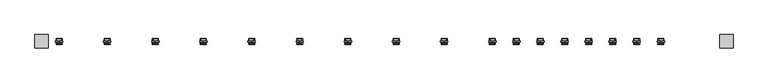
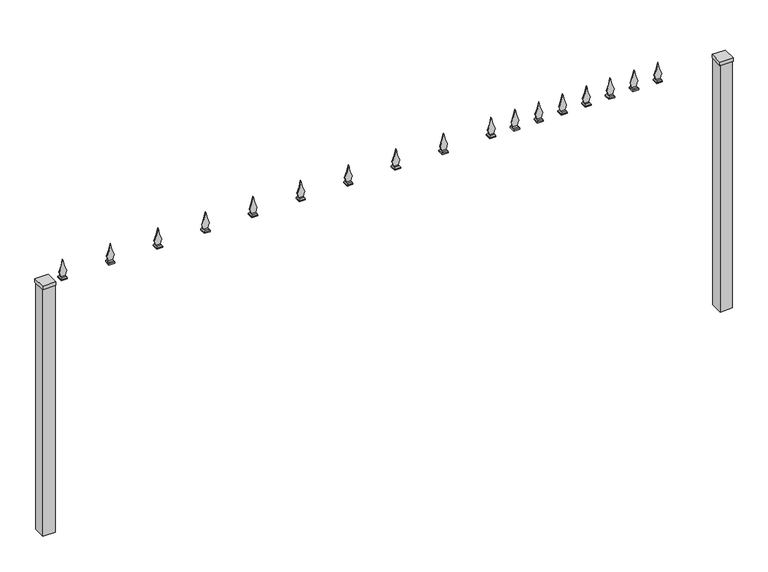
"""IFC4 building model written with IfcOpenShell, lengths in millimetres: geographic element geometry, Portail coulissant - 01 : Portail coulissant - 01."""

from ifc_helpers import new_model, si_unit, point, frame, frame_2d, origin, place, context, project, spatial, polyline, circle_curve, trimmed, segment, composite_curve, outline, extrude, faceted_brep, source, transform, mapped, element, save


def geographic_element_b61b0670(model_context):
    return source(origin(), model_context, "Body", "SolidModel", [
        extrude(outline(composite_curve([segment(trimmed(circle_curve(frame_2d((1074.9252719, 881.9773887)), 87.884948), [point((1110.0, 962.5598156))], [point((1090.0, 968.5598156))], True, "CARTESIAN"), True, "CONTINUOUS"), segment(polyline([(1090.0, 968.5598156), (1090.0, 986.5598156)]), True, "CONTINUOUS"), segment(trimmed(circle_curve(frame_2d((1074.9252719, 1073.1422425)), 87.884948), [point((1090.0, 986.5598156))], [point((1110.0, 992.5598156))], True, "CARTESIAN"), True, "CONTINUOUS"), segment(trimmed(circle_curve(frame_2d((1184.2044665, 1149.0747041)), 173.2143562), [point((1110.0, 992.5598156))], [point((1160.0, 977.5598156))], True, "CARTESIAN"), True, "CONTINUOUS"), segment(trimmed(circle_curve(frame_2d((1184.2044665, 806.0449271)), 173.2143562), [point((1160.0, 977.5598156))], [point((1110.0, 962.5598156))], True, "CARTESIAN"), True, "CONTINUOUS")], self_intersect=False)), frame((0.0, -1.5, 0.0), z_axis=(0.0, 1.0, 0.0), x_axis=(0.0, 0.0, 1.0)), (0.0, 0.0, 1.0), 3.0),
        faceted_brep([(968.5598156, -9.0, 1090.0), (986.5598156, -9.0, 1090.0), (986.5598156, 9.0, 1090.0), (968.5598156, 9.0, 1090.0), (965.5598156, -12.0, 1085.0), (965.5598156, 12.0, 1085.0), (989.5598156, 12.0, 1085.0), (989.5598156, -12.0, 1085.0)], [[[0, 1, 2, 3]], [[4, 5, 6, 7]], [[4, 0, 3, 5]], [[5, 3, 2, 6]], [[6, 2, 1, 7]], [[7, 1, 0, 4]]]),
        extrude(outline(polyline([(989.5598156, -12.0), (965.5598156, -12.0), (965.5598156, 12.0), (989.5598156, 12.0), (989.5598156, -12.0)])), frame((0.0, 0.0, 1080.0), z_axis=(0.0, 0.0, 1.0), x_axis=(1.0, 0.0, 0.0)), (0.0, 0.0, 1.0), 5.0),
        extrude(outline(composite_curve([segment(trimmed(circle_curve(frame_2d((1074.9252719, 785.310722)), 87.884948), [point((1110.0, 865.8931489))], [point((1090.0, 871.8931489))], True, "CARTESIAN"), True, "CONTINUOUS"), segment(polyline([(1090.0, 871.8931489), (1090.0, 889.8931489)]), True, "CONTINUOUS"), segment(trimmed(circle_curve(frame_2d((1074.9252719, 976.4755759)), 87.884948), [point((1090.0, 889.8931489))], [point((1110.0, 895.8931489))], True, "CARTESIAN"), True, "CONTINUOUS"), segment(trimmed(circle_curve(frame_2d((1184.2044665, 1052.4080374)), 173.2143562), [point((1110.0, 895.8931489))], [point((1160.0, 880.8931489))], True, "CARTESIAN"), True, "CONTINUOUS"), segment(trimmed(circle_curve(frame_2d((1184.2044665, 709.3782604)), 173.2143562), [point((1160.0, 880.8931489))], [point((1110.0, 865.8931489))], True, "CARTESIAN"), True, "CONTINUOUS")], self_intersect=False)), frame((0.0, -1.5, 0.0), z_axis=(0.0, 1.0, 0.0), x_axis=(0.0, 0.0, 1.0)), (0.0, 0.0, 1.0), 3.0),
        faceted_brep([(871.8931489, -9.0, 1090.0), (889.8931489, -9.0, 1090.0), (889.8931489, 9.0, 1090.0), (871.8931489, 9.0, 1090.0), (868.8931489, -12.0, 1085.0), (868.8931489, 12.0, 1085.0), (892.8931489, 12.0, 1085.0), (892.8931489, -12.0, 1085.0)], [[[0, 1, 2, 3]], [[4, 5, 6, 7]], [[4, 0, 3, 5]], [[5, 3, 2, 6]], [[6, 2, 1, 7]], [[7, 1, 0, 4]]]),
        extrude(outline(polyline([(892.8931489, -12.0), (868.8931489, -12.0), (868.8931489, 12.0), (892.8931489, 12.0), (892.8931489, -12.0)])), frame((0.0, 0.0, 1080.0), z_axis=(0.0, 0.0, 1.0), x_axis=(1.0, 0.0, 0.0)), (0.0, 0.0, 1.0), 5.0),
        extrude(outline(composite_curve([segment(trimmed(circle_curve(frame_2d((1074.9252719, 688.6440554)), 87.884948), [point((1110.0, 769.2264823))], [point((1090.0, 775.2264823))], True, "CARTESIAN"), True, "CONTINUOUS"), segment(polyline([(1090.0, 775.2264823), (1090.0, 793.2264823)]), True, "CONTINUOUS"), segment(trimmed(circle_curve(frame_2d((1074.9252719, 879.8089092)), 87.884948), [point((1090.0, 793.2264823))], [point((1110.0, 799.2264823))], True, "CARTESIAN"), True, "CONTINUOUS"), segment(trimmed(circle_curve(frame_2d((1184.2044665, 955.7413708)), 173.2143562), [point((1110.0, 799.2264823))], [point((1160.0, 784.2264823))], True, "CARTESIAN"), True, "CONTINUOUS"), segment(trimmed(circle_curve(frame_2d((1184.2044665, 612.7115938)), 173.2143562), [point((1160.0, 784.2264823))], [point((1110.0, 769.2264823))], True, "CARTESIAN"), True, "CONTINUOUS")], self_intersect=False)), frame((0.0, -1.5, 0.0), z_axis=(0.0, 1.0, 0.0), x_axis=(0.0, 0.0, 1.0)), (0.0, 0.0, 1.0), 3.0),
        faceted_brep([(775.2264823, -9.0, 1090.0), (793.2264823, -9.0, 1090.0), (793.2264823, 9.0, 1090.0), (775.2264823, 9.0, 1090.0), (772.2264823, -12.0, 1085.0), (772.2264823, 12.0, 1085.0), (796.2264823, 12.0, 1085.0), (796.2264823, -12.0, 1085.0)], [[[0, 1, 2, 3]], [[4, 5, 6, 7]], [[4, 0, 3, 5]], [[5, 3, 2, 6]], [[6, 2, 1, 7]], [[7, 1, 0, 4]]]),
        extrude(outline(polyline([(796.2264823, -12.0), (772.2264823, -12.0), (772.2264823, 12.0), (796.2264823, 12.0), (796.2264823, -12.0)])), frame((0.0, 0.0, 1080.0), z_axis=(0.0, 0.0, 1.0), x_axis=(1.0, 0.0, 0.0)), (0.0, 0.0, 1.0), 5.0),
        extrude(outline(composite_curve([segment(trimmed(circle_curve(frame_2d((1074.9252719, 591.9773887)), 87.884948), [point((1110.0, 672.5598156))], [point((1090.0, 678.5598156))], True, "CARTESIAN"), True, "CONTINUOUS"), segment(polyline([(1090.0, 678.5598156), (1090.0, 696.5598156)]), True, "CONTINUOUS"), segment(trimmed(circle_curve(frame_2d((1074.9252719, 783.1422425)), 87.884948), [point((1090.0, 696.5598156))], [point((1110.0, 702.5598156))], True, "CARTESIAN"), True, "CONTINUOUS"), segment(trimmed(circle_curve(frame_2d((1184.2044665, 859.0747041)), 173.2143562), [point((1110.0, 702.5598156))], [point((1160.0, 687.5598156))], True, "CARTESIAN"), True, "CONTINUOUS"), segment(trimmed(circle_curve(frame_2d((1184.2044665, 516.0449271)), 173.2143562), [point((1160.0, 687.5598156))], [point((1110.0, 672.5598156))], True, "CARTESIAN"), True, "CONTINUOUS")], self_intersect=False)), frame((0.0, -1.5, 0.0), z_axis=(0.0, 1.0, 0.0), x_axis=(0.0, 0.0, 1.0)), (0.0, 0.0, 1.0), 3.0),
        faceted_brep([(678.5598156, -9.0, 1090.0), (696.5598156, -9.0, 1090.0), (696.5598156, 9.0, 1090.0), (678.5598156, 9.0, 1090.0), (675.5598156, -12.0, 1085.0), (675.5598156, 12.0, 1085.0), (699.5598156, 12.0, 1085.0), (699.5598156, -12.0, 1085.0)], [[[0, 1, 2, 3]], [[4, 5, 6, 7]], [[4, 0, 3, 5]], [[5, 3, 2, 6]], [[6, 2, 1, 7]], [[7, 1, 0, 4]]]),
        extrude(outline(polyline([(699.5598156, -12.0), (675.5598156, -12.0), (675.5598156, 12.0), (699.5598156, 12.0), (699.5598156, -12.0)])), frame((0.0, 0.0, 1080.0), z_axis=(0.0, 0.0, 1.0), x_axis=(1.0, 0.0, 0.0)), (0.0, 0.0, 1.0), 5.0),
        extrude(outline(composite_curve([segment(trimmed(circle_curve(frame_2d((1074.9252719, 495.310722)), 87.884948), [point((1110.0, 575.8931489))], [point((1090.0, 581.8931489))], True, "CARTESIAN"), True, "CONTINUOUS"), segment(polyline([(1090.0, 581.8931489), (1090.0, 599.8931489)]), True, "CONTINUOUS"), segment(trimmed(circle_curve(frame_2d((1074.9252719, 686.4755759)), 87.884948), [point((1090.0, 599.8931489))], [point((1110.0, 605.8931489))], True, "CARTESIAN"), True, "CONTINUOUS"), segment(trimmed(circle_curve(frame_2d((1184.2044665, 762.4080374)), 173.2143562), [point((1110.0, 605.8931489))], [point((1160.0, 590.8931489))], True, "CARTESIAN"), True, "CONTINUOUS"), segment(trimmed(circle_curve(frame_2d((1184.2044665, 419.3782604)), 173.2143562), [point((1160.0, 590.8931489))], [point((1110.0, 575.8931489))], True, "CARTESIAN"), True, "CONTINUOUS")], self_intersect=False)), frame((0.0, -1.5, 0.0), z_axis=(0.0, 1.0, 0.0), x_axis=(0.0, 0.0, 1.0)), (0.0, 0.0, 1.0), 3.0),
        faceted_brep([(581.8931489, -9.0, 1090.0), (599.8931489, -9.0, 1090.0), (599.8931489, 9.0, 1090.0), (581.8931489, 9.0, 1090.0), (578.8931489, -12.0, 1085.0), (578.8931489, 12.0, 1085.0), (602.8931489, 12.0, 1085.0), (602.8931489, -12.0, 1085.0)], [[[0, 1, 2, 3]], [[4, 5, 6, 7]], [[4, 0, 3, 5]], [[5, 3, 2, 6]], [[6, 2, 1, 7]], [[7, 1, 0, 4]]]),
        extrude(outline(polyline([(602.8931489, -12.0), (578.8931489, -12.0), (578.8931489, 12.0), (602.8931489, 12.0), (602.8931489, -12.0)])), frame((0.0, 0.0, 1080.0), z_axis=(0.0, 0.0, 1.0), x_axis=(1.0, 0.0, 0.0)), (0.0, 0.0, 1.0), 5.0),
        extrude(outline(composite_curve([segment(trimmed(circle_curve(frame_2d((1074.9252719, 398.6440554)), 87.884948), [point((1110.0, 479.2264823))], [point((1090.0, 485.2264823))], True, "CARTESIAN"), True, "CONTINUOUS"), segment(polyline([(1090.0, 485.2264823), (1090.0, 503.2264823)]), True, "CONTINUOUS"), segment(trimmed(circle_curve(frame_2d((1074.9252719, 589.8089092)), 87.884948), [point((1090.0, 503.2264823))], [point((1110.0, 509.2264823))], True, "CARTESIAN"), True, "CONTINUOUS"), segment(trimmed(circle_curve(frame_2d((1184.2044665, 665.7413708)), 173.2143562), [point((1110.0, 509.2264823))], [point((1160.0, 494.2264823))], True, "CARTESIAN"), True, "CONTINUOUS"), segment(trimmed(circle_curve(frame_2d((1184.2044665, 322.7115938)), 173.2143562), [point((1160.0, 494.2264823))], [point((1110.0, 479.2264823))], True, "CARTESIAN"), True, "CONTINUOUS")], self_intersect=False)), frame((0.0, -1.5, 0.0), z_axis=(0.0, 1.0, 0.0), x_axis=(0.0, 0.0, 1.0)), (0.0, 0.0, 1.0), 3.0),
        faceted_brep([(485.2264823, -9.0, 1090.0), (503.2264823, -9.0, 1090.0), (503.2264823, 9.0, 1090.0), (485.2264823, 9.0, 1090.0), (482.2264823, -12.0, 1085.0), (482.2264823, 12.0, 1085.0), (506.2264823, 12.0, 1085.0), (506.2264823, -12.0, 1085.0)], [[[0, 1, 2, 3]], [[4, 5, 6, 7]], [[4, 0, 3, 5]], [[5, 3, 2, 6]], [[6, 2, 1, 7]], [[7, 1, 0, 4]]]),
        extrude(outline(polyline([(506.2264823, -12.0), (482.2264823, -12.0), (482.2264823, 12.0), (506.2264823, 12.0), (506.2264823, -12.0)])), frame((0.0, 0.0, 1080.0), z_axis=(0.0, 0.0, 1.0), x_axis=(1.0, 0.0, 0.0)), (0.0, 0.0, 1.0), 5.0),
        extrude(outline(composite_curve([segment(trimmed(circle_curve(frame_2d((1074.9252719, 301.9773887)), 87.884948), [point((1110.0, 382.5598156))], [point((1090.0, 388.5598156))], True, "CARTESIAN"), True, "CONTINUOUS"), segment(polyline([(1090.0, 388.5598156), (1090.0, 406.5598156)]), True, "CONTINUOUS"), segment(trimmed(circle_curve(frame_2d((1074.9252719, 493.1422425)), 87.884948), [point((1090.0, 406.5598156))], [point((1110.0, 412.5598156))], True, "CARTESIAN"), True, "CONTINUOUS"), segment(trimmed(circle_curve(frame_2d((1184.2044665, 569.0747041)), 173.2143562), [point((1110.0, 412.5598156))], [point((1160.0, 397.5598156))], True, "CARTESIAN"), True, "CONTINUOUS"), segment(trimmed(circle_curve(frame_2d((1184.2044665, 226.0449271)), 173.2143562), [point((1160.0, 397.5598156))], [point((1110.0, 382.5598156))], True, "CARTESIAN"), True, "CONTINUOUS")], self_intersect=False)), frame((0.0, -1.5, 0.0), z_axis=(0.0, 1.0, 0.0), x_axis=(0.0, 0.0, 1.0)), (0.0, 0.0, 1.0), 3.0),
        faceted_brep([(388.5598156, -9.0, 1090.0), (406.5598156, -9.0, 1090.0), (406.5598156, 9.0, 1090.0), (388.5598156, 9.0, 1090.0), (385.5598156, -12.0, 1085.0), (385.5598156, 12.0, 1085.0), (409.5598156, 12.0, 1085.0), (409.5598156, -12.0, 1085.0)], [[[0, 1, 2, 3]], [[4, 5, 6, 7]], [[4, 0, 3, 5]], [[5, 3, 2, 6]], [[6, 2, 1, 7]], [[7, 1, 0, 4]]]),
        extrude(outline(polyline([(409.5598156, -12.0), (385.5598156, -12.0), (385.5598156, 12.0), (409.5598156, 12.0), (409.5598156, -12.0)])), frame((0.0, 0.0, 1080.0), z_axis=(0.0, 0.0, 1.0), x_axis=(1.0, 0.0, 0.0)), (0.0, 0.0, 1.0), 5.0),
        extrude(outline(composite_curve([segment(trimmed(circle_curve(frame_2d((1074.9252719, 205.310722)), 87.884948), [point((1110.0, 285.8931489))], [point((1090.0, 291.8931489))], True, "CARTESIAN"), True, "CONTINUOUS"), segment(polyline([(1090.0, 291.8931489), (1090.0, 309.8931489)]), True, "CONTINUOUS"), segment(trimmed(circle_curve(frame_2d((1074.9252719, 396.4755759)), 87.884948), [point((1090.0, 309.8931489))], [point((1110.0, 315.8931489))], True, "CARTESIAN"), True, "CONTINUOUS"), segment(trimmed(circle_curve(frame_2d((1184.2044665, 472.4080374)), 173.2143562), [point((1110.0, 315.8931489))], [point((1160.0, 300.8931489))], True, "CARTESIAN"), True, "CONTINUOUS"), segment(trimmed(circle_curve(frame_2d((1184.2044665, 129.3782604)), 173.2143562), [point((1160.0, 300.8931489))], [point((1110.0, 285.8931489))], True, "CARTESIAN"), True, "CONTINUOUS")], self_intersect=False)), frame((0.0, -1.5, 0.0), z_axis=(0.0, 1.0, 0.0), x_axis=(0.0, 0.0, 1.0)), (0.0, 0.0, 1.0), 3.0),
        faceted_brep([(291.8931489, -9.0, 1090.0), (309.8931489, -9.0, 1090.0), (309.8931489, 9.0, 1090.0), (291.8931489, 9.0, 1090.0), (288.8931489, -12.0, 1085.0), (288.8931489, 12.0, 1085.0), (312.8931489, 12.0, 1085.0), (312.8931489, -12.0, 1085.0)], [[[0, 1, 2, 3]], [[4, 5, 6, 7]], [[4, 0, 3, 5]], [[5, 3, 2, 6]], [[6, 2, 1, 7]], [[7, 1, 0, 4]]]),
        extrude(outline(polyline([(312.8931489, -12.0), (288.8931489, -12.0), (288.8931489, 12.0), (312.8931489, 12.0), (312.8931489, -12.0)])), frame((0.0, 0.0, 1080.0), z_axis=(0.0, 0.0, 1.0), x_axis=(1.0, 0.0, 0.0)), (0.0, 0.0, 1.0), 5.0),
        extrude(outline(composite_curve([segment(trimmed(circle_curve(frame_2d((1074.9252719, 11.9773887)), 87.884948), [point((1110.0, 92.5598156))], [point((1090.0, 98.5598156))], True, "CARTESIAN"), True, "CONTINUOUS"), segment(polyline([(1090.0, 98.5598156), (1090.0, 116.5598156)]), True, "CONTINUOUS"), segment(trimmed(circle_curve(frame_2d((1074.9252719, 203.1422425)), 87.884948), [point((1090.0, 116.5598156))], [point((1110.0, 122.5598156))], True, "CARTESIAN"), True, "CONTINUOUS"), segment(trimmed(circle_curve(frame_2d((1184.2044665, 279.0747041)), 173.2143562), [point((1110.0, 122.5598156))], [point((1160.0, 107.5598156))], True, "CARTESIAN"), True, "CONTINUOUS"), segment(trimmed(circle_curve(frame_2d((1184.2044665, -63.9550729)), 173.2143562), [point((1160.0, 107.5598156))], [point((1110.0, 92.5598156))], True, "CARTESIAN"), True, "CONTINUOUS")], self_intersect=False)), frame((0.0, -1.5, 0.0), z_axis=(0.0, 1.0, 0.0), x_axis=(0.0, 0.0, 1.0)), (0.0, 0.0, 1.0), 3.0),
        faceted_brep([(98.5598156, -9.0, 1090.0), (116.5598156, -9.0, 1090.0), (116.5598156, 9.0, 1090.0), (98.5598156, 9.0, 1090.0), (95.5598156, -12.0, 1085.0), (95.5598156, 12.0, 1085.0), (119.5598156, 12.0, 1085.0), (119.5598156, -12.0, 1085.0)], [[[0, 1, 2, 3]], [[4, 5, 6, 7]], [[4, 0, 3, 5]], [[5, 3, 2, 6]], [[6, 2, 1, 7]], [[7, 1, 0, 4]]]),
        extrude(outline(polyline([(119.5598156, -12.0), (95.5598156, -12.0), (95.5598156, 12.0), (119.5598156, 12.0), (119.5598156, -12.0)])), frame((0.0, 0.0, 1080.0), z_axis=(0.0, 0.0, 1.0), x_axis=(1.0, 0.0, 0.0)), (0.0, 0.0, 1.0), 5.0),
        extrude(outline(composite_curve([segment(trimmed(circle_curve(frame_2d((1074.9252719, -181.3559446)), 87.884948), [point((1110.0, -100.7735177))], [point((1090.0, -94.7735177))], True, "CARTESIAN"), True, "CONTINUOUS"), segment(polyline([(1090.0, -94.7735177), (1090.0, -76.7735177)]), True, "CONTINUOUS"), segment(trimmed(circle_curve(frame_2d((1074.9252719, 9.8089092)), 87.884948), [point((1090.0, -76.7735177))], [point((1110.0, -70.7735177))], True, "CARTESIAN"), True, "CONTINUOUS"), segment(trimmed(circle_curve(frame_2d((1184.2044665, 85.7413708)), 173.2143562), [point((1110.0, -70.7735177))], [point((1160.0, -85.7735177))], True, "CARTESIAN"), True, "CONTINUOUS"), segment(trimmed(circle_curve(frame_2d((1184.2044665, -257.2884062)), 173.2143562), [point((1160.0, -85.7735177))], [point((1110.0, -100.7735177))], True, "CARTESIAN"), True, "CONTINUOUS")], self_intersect=False)), frame((0.0, -1.5, 0.0), z_axis=(0.0, 1.0, 0.0), x_axis=(0.0, 0.0, 1.0)), (0.0, 0.0, 1.0), 3.0),
        faceted_brep([(-94.7735177, -9.0, 1090.0), (-76.7735177, -9.0, 1090.0), (-76.7735177, 9.0, 1090.0), (-94.7735177, 9.0, 1090.0), (-97.7735177, -12.0, 1085.0), (-97.7735177, 12.0, 1085.0), (-73.7735177, 12.0, 1085.0), (-73.7735177, -12.0, 1085.0)], [[[0, 1, 2, 3]], [[4, 5, 6, 7]], [[4, 0, 3, 5]], [[5, 3, 2, 6]], [[6, 2, 1, 7]], [[7, 1, 0, 4]]]),
        extrude(outline(polyline([(-73.7735177, -12.0), (-97.7735177, -12.0), (-97.7735177, 12.0), (-73.7735177, 12.0), (-73.7735177, -12.0)])), frame((0.0, 0.0, 1080.0), z_axis=(0.0, 0.0, 1.0), x_axis=(1.0, 0.0, 0.0)), (0.0, 0.0, 1.0), 5.0),
        extrude(outline(composite_curve([segment(trimmed(circle_curve(frame_2d((1074.9252719, -374.689278)), 87.884948), [point((1110.0, -294.1068511))], [point((1090.0, -288.1068511))], True, "CARTESIAN"), True, "CONTINUOUS"), segment(polyline([(1090.0, -288.1068511), (1090.0, -270.1068511)]), True, "CONTINUOUS"), segment(trimmed(circle_curve(frame_2d((1074.9252719, -183.5244241)), 87.884948), [point((1090.0, -270.1068511))], [point((1110.0, -264.1068511))], True, "CARTESIAN"), True, "CONTINUOUS"), segment(trimmed(circle_curve(frame_2d((1184.2044665, -107.5919626)), 173.2143562), [point((1110.0, -264.1068511))], [point((1160.0, -279.1068511))], True, "CARTESIAN"), True, "CONTINUOUS"), segment(trimmed(circle_curve(frame_2d((1184.2044665, -450.6217396)), 173.2143562), [point((1160.0, -279.1068511))], [point((1110.0, -294.1068511))], True, "CARTESIAN"), True, "CONTINUOUS")], self_intersect=False)), frame((0.0, -1.5, 0.0), z_axis=(0.0, 1.0, 0.0), x_axis=(0.0, 0.0, 1.0)), (0.0, 0.0, 1.0), 3.0),
        faceted_brep([(-288.1068511, -9.0, 1090.0), (-270.1068511, -9.0, 1090.0), (-270.1068511, 9.0, 1090.0), (-288.1068511, 9.0, 1090.0), (-291.1068511, -12.0, 1085.0), (-291.1068511, 12.0, 1085.0), (-267.1068511, 12.0, 1085.0), (-267.1068511, -12.0, 1085.0)], [[[0, 1, 2, 3]], [[4, 5, 6, 7]], [[4, 0, 3, 5]], [[5, 3, 2, 6]], [[6, 2, 1, 7]], [[7, 1, 0, 4]]]),
        extrude(outline(polyline([(-267.1068511, -12.0), (-291.1068511, -12.0), (-291.1068511, 12.0), (-267.1068511, 12.0), (-267.1068511, -12.0)])), frame((0.0, 0.0, 1080.0), z_axis=(0.0, 0.0, 1.0), x_axis=(1.0, 0.0, 0.0)), (0.0, 0.0, 1.0), 5.0),
        extrude(outline(composite_curve([segment(trimmed(circle_curve(frame_2d((1074.9252719, -568.0226113)), 87.884948), [point((1110.0, -487.4401844))], [point((1090.0, -481.4401844))], True, "CARTESIAN"), True, "CONTINUOUS"), segment(polyline([(1090.0, -481.4401844), (1090.0, -463.4401844)]), True, "CONTINUOUS"), segment(trimmed(circle_curve(frame_2d((1074.9252719, -376.8577575)), 87.884948), [point((1090.0, -463.4401844))], [point((1110.0, -457.4401844))], True, "CARTESIAN"), True, "CONTINUOUS"), segment(trimmed(circle_curve(frame_2d((1184.2044665, -300.9252959)), 173.2143562), [point((1110.0, -457.4401844))], [point((1160.0, -472.4401844))], True, "CARTESIAN"), True, "CONTINUOUS"), segment(trimmed(circle_curve(frame_2d((1184.2044665, -643.9550729)), 173.2143562), [point((1160.0, -472.4401844))], [point((1110.0, -487.4401844))], True, "CARTESIAN"), True, "CONTINUOUS")], self_intersect=False)), frame((0.0, -1.5, 0.0), z_axis=(0.0, 1.0, 0.0), x_axis=(0.0, 0.0, 1.0)), (0.0, 0.0, 1.0), 3.0),
        faceted_brep([(-481.4401844, -9.0, 1090.0), (-463.4401844, -9.0, 1090.0), (-463.4401844, 9.0, 1090.0), (-481.4401844, 9.0, 1090.0), (-484.4401844, -12.0, 1085.0), (-484.4401844, 12.0, 1085.0), (-460.4401844, 12.0, 1085.0), (-460.4401844, -12.0, 1085.0)], [[[0, 1, 2, 3]], [[4, 5, 6, 7]], [[4, 0, 3, 5]], [[5, 3, 2, 6]], [[6, 2, 1, 7]], [[7, 1, 0, 4]]]),
        extrude(outline(polyline([(-460.4401844, -12.0), (-484.4401844, -12.0), (-484.4401844, 12.0), (-460.4401844, 12.0), (-460.4401844, -12.0)])), frame((0.0, 0.0, 1080.0), z_axis=(0.0, 0.0, 1.0), x_axis=(1.0, 0.0, 0.0)), (0.0, 0.0, 1.0), 5.0),
        extrude(outline(composite_curve([segment(trimmed(circle_curve(frame_2d((1074.9252719, -761.3559446)), 87.884948), [point((1110.0, -680.7735177))], [point((1090.0, -674.7735177))], True, "CARTESIAN"), True, "CONTINUOUS"), segment(polyline([(1090.0, -674.7735177), (1090.0, -656.7735177)]), True, "CONTINUOUS"), segment(trimmed(circle_curve(frame_2d((1074.9252719, -570.1910908)), 87.884948), [point((1090.0, -656.7735177))], [point((1110.0, -650.7735177))], True, "CARTESIAN"), True, "CONTINUOUS"), segment(trimmed(circle_curve(frame_2d((1184.2044665, -494.2586292)), 173.2143562), [point((1110.0, -650.7735177))], [point((1160.0, -665.7735177))], True, "CARTESIAN"), True, "CONTINUOUS"), segment(trimmed(circle_curve(frame_2d((1184.2044665, -837.2884062)), 173.2143562), [point((1160.0, -665.7735177))], [point((1110.0, -680.7735177))], True, "CARTESIAN"), True, "CONTINUOUS")], self_intersect=False)), frame((0.0, -1.5, 0.0), z_axis=(0.0, 1.0, 0.0), x_axis=(0.0, 0.0, 1.0)), (0.0, 0.0, 1.0), 3.0),
        faceted_brep([(-674.7735177, -9.0, 1090.0), (-656.7735177, -9.0, 1090.0), (-656.7735177, 9.0, 1090.0), (-674.7735177, 9.0, 1090.0), (-677.7735177, -12.0, 1085.0), (-677.7735177, 12.0, 1085.0), (-653.7735177, 12.0, 1085.0), (-653.7735177, -12.0, 1085.0)], [[[0, 1, 2, 3]], [[4, 5, 6, 7]], [[4, 0, 3, 5]], [[5, 3, 2, 6]], [[6, 2, 1, 7]], [[7, 1, 0, 4]]]),
        extrude(outline(polyline([(-653.7735177, -12.0), (-677.7735177, -12.0), (-677.7735177, 12.0), (-653.7735177, 12.0), (-653.7735177, -12.0)])), frame((0.0, 0.0, 1080.0), z_axis=(0.0, 0.0, 1.0), x_axis=(1.0, 0.0, 0.0)), (0.0, 0.0, 1.0), 5.0),
        extrude(outline(composite_curve([segment(trimmed(circle_curve(frame_2d((1074.9252719, -954.689278)), 87.884948), [point((1110.0, -874.1068511))], [point((1090.0, -868.1068511))], True, "CARTESIAN"), True, "CONTINUOUS"), segment(polyline([(1090.0, -868.1068511), (1090.0, -850.1068511)]), True, "CONTINUOUS"), segment(trimmed(circle_curve(frame_2d((1074.9252719, -763.5244241)), 87.884948), [point((1090.0, -850.1068511))], [point((1110.0, -844.1068511))], True, "CARTESIAN"), True, "CONTINUOUS"), segment(trimmed(circle_curve(frame_2d((1184.2044665, -687.5919626)), 173.2143562), [point((1110.0, -844.1068511))], [point((1160.0, -859.1068511))], True, "CARTESIAN"), True, "CONTINUOUS"), segment(trimmed(circle_curve(frame_2d((1184.2044665, -1030.6217396)), 173.2143562), [point((1160.0, -859.1068511))], [point((1110.0, -874.1068511))], True, "CARTESIAN"), True, "CONTINUOUS")], self_intersect=False)), frame((0.0, -1.5, 0.0), z_axis=(0.0, 1.0, 0.0), x_axis=(0.0, 0.0, 1.0)), (0.0, 0.0, 1.0), 3.0),
        faceted_brep([(-868.1068511, -9.0, 1090.0), (-850.1068511, -9.0, 1090.0), (-850.1068511, 9.0, 1090.0), (-868.1068511, 9.0, 1090.0), (-871.1068511, -12.0, 1085.0), (-871.1068511, 12.0, 1085.0), (-847.1068511, 12.0, 1085.0), (-847.1068511, -12.0, 1085.0)], [[[0, 1, 2, 3]], [[4, 5, 6, 7]], [[4, 0, 3, 5]], [[5, 3, 2, 6]], [[6, 2, 1, 7]], [[7, 1, 0, 4]]]),
        extrude(outline(polyline([(-847.1068511, -12.0), (-871.1068511, -12.0), (-871.1068511, 12.0), (-847.1068511, 12.0), (-847.1068511, -12.0)])), frame((0.0, 0.0, 1080.0), z_axis=(0.0, 0.0, 1.0), x_axis=(1.0, 0.0, 0.0)), (0.0, 0.0, 1.0), 5.0),
        extrude(outline(composite_curve([segment(trimmed(circle_curve(frame_2d((1074.9252719, -1148.0226113)), 87.884948), [point((1110.0, -1067.4401844))], [point((1090.0, -1061.4401844))], True, "CARTESIAN"), True, "CONTINUOUS"), segment(polyline([(1090.0, -1061.4401844), (1090.0, -1043.4401844)]), True, "CONTINUOUS"), segment(trimmed(circle_curve(frame_2d((1074.9252719, -956.8577575)), 87.884948), [point((1090.0, -1043.4401844))], [point((1110.0, -1037.4401844))], True, "CARTESIAN"), True, "CONTINUOUS"), segment(trimmed(circle_curve(frame_2d((1184.2044665, -880.9252959)), 173.2143562), [point((1110.0, -1037.4401844))], [point((1160.0, -1052.4401844))], True, "CARTESIAN"), True, "CONTINUOUS"), segment(trimmed(circle_curve(frame_2d((1184.2044665, -1223.9550729)), 173.2143562), [point((1160.0, -1052.4401844))], [point((1110.0, -1067.4401844))], True, "CARTESIAN"), True, "CONTINUOUS")], self_intersect=False)), frame((0.0, -1.5, 0.0), z_axis=(0.0, 1.0, 0.0), x_axis=(0.0, 0.0, 1.0)), (0.0, 0.0, 1.0), 3.0),
        faceted_brep([(-1061.4401844, -9.0, 1090.0), (-1043.4401844, -9.0, 1090.0), (-1043.4401844, 9.0, 1090.0), (-1061.4401844, 9.0, 1090.0), (-1064.4401844, -12.0, 1085.0), (-1064.4401844, 12.0, 1085.0), (-1040.4401844, 12.0, 1085.0), (-1040.4401844, -12.0, 1085.0)], [[[0, 1, 2, 3]], [[4, 5, 6, 7]], [[4, 0, 3, 5]], [[5, 3, 2, 6]], [[6, 2, 1, 7]], [[7, 1, 0, 4]]]),
        extrude(outline(polyline([(-1040.4401844, -12.0), (-1064.4401844, -12.0), (-1064.4401844, 12.0), (-1040.4401844, 12.0), (-1040.4401844, -12.0)])), frame((0.0, 0.0, 1080.0), z_axis=(0.0, 0.0, 1.0), x_axis=(1.0, 0.0, 0.0)), (0.0, 0.0, 1.0), 5.0),
        extrude(outline(composite_curve([segment(trimmed(circle_curve(frame_2d((1074.9252719, -1341.3559446)), 87.884948), [point((1110.0, -1260.7735177))], [point((1090.0, -1254.7735177))], True, "CARTESIAN"), True, "CONTINUOUS"), segment(polyline([(1090.0, -1254.7735177), (1090.0, -1236.7735177)]), True, "CONTINUOUS"), segment(trimmed(circle_curve(frame_2d((1074.9252719, -1150.1910908)), 87.884948), [point((1090.0, -1236.7735177))], [point((1110.0, -1230.7735177))], True, "CARTESIAN"), True, "CONTINUOUS"), segment(trimmed(circle_curve(frame_2d((1184.2044665, -1074.2586292)), 173.2143562), [point((1110.0, -1230.7735177))], [point((1160.0, -1245.7735177))], True, "CARTESIAN"), True, "CONTINUOUS"), segment(trimmed(circle_curve(frame_2d((1184.2044665, -1417.2884062)), 173.2143562), [point((1160.0, -1245.7735177))], [point((1110.0, -1260.7735177))], True, "CARTESIAN"), True, "CONTINUOUS")], self_intersect=False)), frame((0.0, -1.5, 0.0), z_axis=(0.0, 1.0, 0.0), x_axis=(0.0, 0.0, 1.0)), (0.0, 0.0, 1.0), 3.0),
        faceted_brep([(-1254.7735177, -9.0, 1090.0), (-1236.7735177, -9.0, 1090.0), (-1236.7735177, 9.0, 1090.0), (-1254.7735177, 9.0, 1090.0), (-1257.7735177, -12.0, 1085.0), (-1257.7735177, 12.0, 1085.0), (-1233.7735177, 12.0, 1085.0), (-1233.7735177, -12.0, 1085.0)], [[[0, 1, 2, 3]], [[4, 5, 6, 7]], [[4, 0, 3, 5]], [[5, 3, 2, 6]], [[6, 2, 1, 7]], [[7, 1, 0, 4]]]),
        extrude(outline(polyline([(-1233.7735177, -12.0), (-1257.7735177, -12.0), (-1257.7735177, 12.0), (-1233.7735177, 12.0), (-1233.7735177, -12.0)])), frame((0.0, 0.0, 1080.0), z_axis=(0.0, 0.0, 1.0), x_axis=(1.0, 0.0, 0.0)), (0.0, 0.0, 1.0), 5.0),
        extrude(outline(composite_curve([segment(trimmed(circle_curve(frame_2d((1074.9252719, -1534.689278)), 87.884948), [point((1110.0, -1454.1068511))], [point((1090.0, -1448.1068511))], True, "CARTESIAN"), True, "CONTINUOUS"), segment(polyline([(1090.0, -1448.1068511), (1090.0, -1430.1068511)]), True, "CONTINUOUS"), segment(trimmed(circle_curve(frame_2d((1074.9252719, -1343.5244241)), 87.884948), [point((1090.0, -1430.1068511))], [point((1110.0, -1424.1068511))], True, "CARTESIAN"), True, "CONTINUOUS"), segment(trimmed(circle_curve(frame_2d((1184.2044665, -1267.5919626)), 173.2143562), [point((1110.0, -1424.1068511))], [point((1160.0, -1439.1068511))], True, "CARTESIAN"), True, "CONTINUOUS"), segment(trimmed(circle_curve(frame_2d((1184.2044665, -1610.6217396)), 173.2143562), [point((1160.0, -1439.1068511))], [point((1110.0, -1454.1068511))], True, "CARTESIAN"), True, "CONTINUOUS")], self_intersect=False)), frame((0.0, -1.5, 0.0), z_axis=(0.0, 1.0, 0.0), x_axis=(0.0, 0.0, 1.0)), (0.0, 0.0, 1.0), 3.0),
        faceted_brep([(-1448.1068511, -9.0, 1090.0), (-1430.1068511, -9.0, 1090.0), (-1430.1068511, 9.0, 1090.0), (-1448.1068511, 9.0, 1090.0), (-1451.1068511, -12.0, 1085.0), (-1451.1068511, 12.0, 1085.0), (-1427.1068511, 12.0, 1085.0), (-1427.1068511, -12.0, 1085.0)], [[[0, 1, 2, 3]], [[4, 5, 6, 7]], [[4, 0, 3, 5]], [[5, 3, 2, 6]], [[6, 2, 1, 7]], [[7, 1, 0, 4]]]),
        extrude(outline(polyline([(-1427.1068511, -12.0), (-1451.1068511, -12.0), (-1451.1068511, 12.0), (-1427.1068511, 12.0), (-1427.1068511, -12.0)])), frame((0.0, 0.0, 1080.0), z_axis=(0.0, 0.0, 1.0), x_axis=(1.0, 0.0, 0.0)), (0.0, 0.0, 1.0), 5.0),
        extrude(outline(polyline([(-1484.1068511, 25.0), (-1484.1068511, -25.0), (-1534.1068511, -25.0), (-1534.1068511, 25.0), (-1484.1068511, 25.0)])), frame((0.0, 0.0, 20.0), z_axis=(0.0, 0.0, 1.0), x_axis=(1.0, 0.0, 0.0)), (0.0, 0.0, 1.0), 1060.0),
        extrude(outline(polyline([(1265.8931489, 25.0), (1265.8931489, -25.0), (1215.8931489, -25.0), (1215.8931489, 25.0), (1265.8931489, 25.0)])), frame((0.0, 0.0, 20.0), z_axis=(0.0, 0.0, 1.0), x_axis=(1.0, 0.0, 0.0)), (0.0, 0.0, 1.0), 1060.0),
        extrude(outline(polyline([(-1482.1068511, -27.0), (-1536.1068511, -27.0), (-1536.1068511, 27.0), (-1482.1068511, 27.0), (-1482.1068511, -27.0)])), frame((0.0, 0.0, 1080.0), z_axis=(0.0, 0.0, 1.0), x_axis=(1.0, 0.0, 0.0)), (0.0, 0.0, 1.0), 15.0),
        extrude(outline(polyline([(1267.8931489, -27.0), (1213.8931489, -27.0), (1213.8931489, 27.0), (1267.8931489, 27.0), (1267.8931489, -27.0)])), frame((0.0, 0.0, 1080.0), z_axis=(0.0, 0.0, 1.0), x_axis=(1.0, 0.0, 0.0)), (0.0, 0.0, 1.0), 15.0),
    ])


if __name__ == "__main__":
    model = new_model("IFC4")
    model_context = context("Model", 3, world=origin())
    ifc_project = project(units=[si_unit("LENGTHUNIT", "METRE", prefix="MILLI")], contexts=[model_context])
    site = spatial("IfcSite", under=ifc_project)
    building = spatial("IfcBuilding", under=site)
    placement = place(None, origin())
    geographic_element_shape = geographic_element_b61b0670(model_context)
    element("IfcGeographicElement", 1, ObjectType="Portail coulissant - 01 : Portail coulissant - 01", at=placement, inside=building, context=model_context, shape_type="MappedRepresentation", body=[
        mapped(geographic_element_shape, transform((0.0, 0.0, 0.0), x_axis=(1.0, 0.0, 0.0), y_axis=(0.0, 1.0, 0.0), z_axis=(0.0, 0.0, 1.0))),
    ])
    save(model, "model.ifc")
